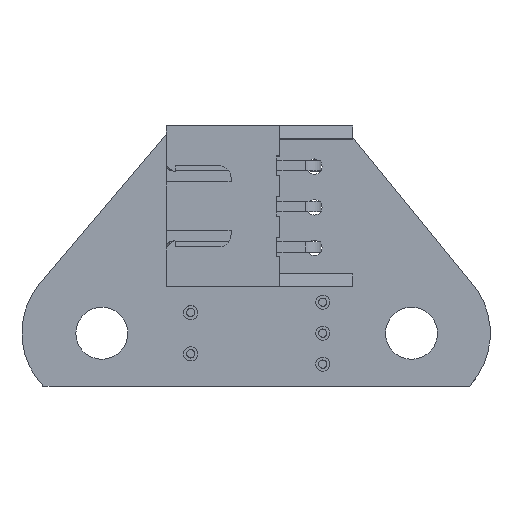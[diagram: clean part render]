
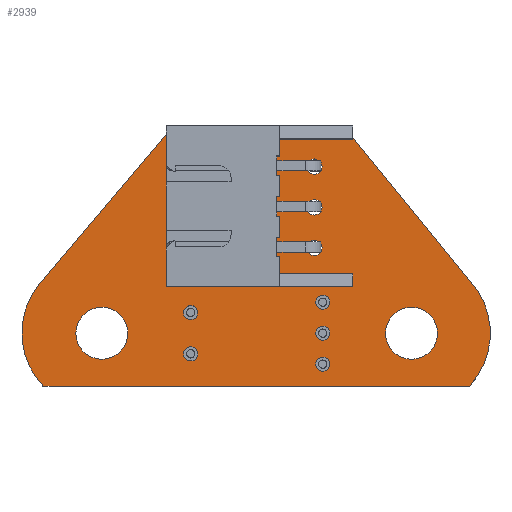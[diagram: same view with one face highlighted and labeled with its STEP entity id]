
A CAD part, top view. The second image highlights one B-rep face of the part: STEP entity #2939.
In plain terms, the highlighted planar face has unit normal (0, 0, 1).
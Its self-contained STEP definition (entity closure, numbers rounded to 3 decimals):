
#61=FACE_BOUND('',#350,.T.);
#62=FACE_BOUND('',#351,.T.);
#63=FACE_BOUND('',#352,.T.);
#64=FACE_BOUND('',#353,.T.);
#65=FACE_BOUND('',#354,.T.);
#66=FACE_BOUND('',#355,.T.);
#67=FACE_BOUND('',#356,.T.);
#68=FACE_BOUND('',#357,.T.);
#69=FACE_BOUND('',#358,.T.);
#70=FACE_BOUND('',#359,.T.);
#78=CIRCLE('',#3157,4.776);
#90=CIRCLE('',#3171,4.772);
#91=CIRCLE('',#3172,1.6);
#92=CIRCLE('',#3173,0.435);
#93=CIRCLE('',#3174,0.435);
#94=CIRCLE('',#3175,0.435);
#95=CIRCLE('',#3176,0.435);
#96=CIRCLE('',#3177,1.6);
#97=CIRCLE('',#3178,0.435);
#98=CIRCLE('',#3179,0.475);
#99=CIRCLE('',#3180,0.475);
#100=CIRCLE('',#3181,0.475);
#168=FACE_OUTER_BOUND('',#349,.T.);
#349=EDGE_LOOP('',(#1979,#1980,#1981,#1982,#1983,#1984));
#350=EDGE_LOOP('',(#1985));
#351=EDGE_LOOP('',(#1986));
#352=EDGE_LOOP('',(#1987));
#353=EDGE_LOOP('',(#1988));
#354=EDGE_LOOP('',(#1989));
#355=EDGE_LOOP('',(#1990));
#356=EDGE_LOOP('',(#1991));
#357=EDGE_LOOP('',(#1992));
#358=EDGE_LOOP('',(#1993));
#359=EDGE_LOOP('',(#1994));
#533=LINE('',#4229,#896);
#537=LINE('',#4237,#900);
#542=LINE('',#4273,#905);
#543=LINE('',#4276,#906);
#896=VECTOR('',#3394,1.);
#900=VECTOR('',#3400,1.);
#905=VECTOR('',#3437,1.);
#906=VECTOR('',#3440,1.);
#1259=VERTEX_POINT('',#4226);
#1260=VERTEX_POINT('',#4228);
#1263=VERTEX_POINT('',#4235);
#1265=VERTEX_POINT('',#4241);
#1278=VERTEX_POINT('',#4272);
#1279=VERTEX_POINT('',#4274);
#1280=VERTEX_POINT('',#4277);
#1281=VERTEX_POINT('',#4279);
#1282=VERTEX_POINT('',#4281);
#1283=VERTEX_POINT('',#4283);
#1284=VERTEX_POINT('',#4285);
#1285=VERTEX_POINT('',#4287);
#1286=VERTEX_POINT('',#4289);
#1287=VERTEX_POINT('',#4291);
#1288=VERTEX_POINT('',#4293);
#1289=VERTEX_POINT('',#4295);
#1531=EDGE_CURVE('',#1259,#1260,#533,.T.);
#1535=EDGE_CURVE('',#1263,#1259,#537,.T.);
#1539=EDGE_CURVE('',#1265,#1260,#78,.T.);
#1553=EDGE_CURVE('',#1278,#1263,#542,.T.);
#1554=EDGE_CURVE('',#1278,#1279,#90,.T.);
#1555=EDGE_CURVE('',#1265,#1279,#543,.T.);
#1556=EDGE_CURVE('',#1280,#1280,#91,.T.);
#1557=EDGE_CURVE('',#1281,#1281,#92,.T.);
#1558=EDGE_CURVE('',#1282,#1282,#93,.T.);
#1559=EDGE_CURVE('',#1283,#1283,#94,.T.);
#1560=EDGE_CURVE('',#1284,#1284,#95,.T.);
#1561=EDGE_CURVE('',#1285,#1285,#96,.T.);
#1562=EDGE_CURVE('',#1286,#1286,#97,.T.);
#1563=EDGE_CURVE('',#1287,#1287,#98,.T.);
#1564=EDGE_CURVE('',#1288,#1288,#99,.T.);
#1565=EDGE_CURVE('',#1289,#1289,#100,.T.);
#1979=ORIENTED_EDGE('',*,*,#1531,.F.);
#1980=ORIENTED_EDGE('',*,*,#1535,.F.);
#1981=ORIENTED_EDGE('',*,*,#1553,.F.);
#1982=ORIENTED_EDGE('',*,*,#1554,.T.);
#1983=ORIENTED_EDGE('',*,*,#1555,.F.);
#1984=ORIENTED_EDGE('',*,*,#1539,.T.);
#1985=ORIENTED_EDGE('',*,*,#1556,.F.);
#1986=ORIENTED_EDGE('',*,*,#1557,.F.);
#1987=ORIENTED_EDGE('',*,*,#1558,.F.);
#1988=ORIENTED_EDGE('',*,*,#1559,.F.);
#1989=ORIENTED_EDGE('',*,*,#1560,.F.);
#1990=ORIENTED_EDGE('',*,*,#1561,.F.);
#1991=ORIENTED_EDGE('',*,*,#1562,.F.);
#1992=ORIENTED_EDGE('',*,*,#1563,.F.);
#1993=ORIENTED_EDGE('',*,*,#1564,.F.);
#1994=ORIENTED_EDGE('',*,*,#1565,.F.);
#2796=PLANE('',#3170);
#2939=ADVANCED_FACE('',(#168,#61,#62,#63,#64,#65,#66,#67,#68,#69,#70),#2796,
 .F.);
#3157=AXIS2_PLACEMENT_3D('',#4244,#3407,#3408);
#3170=AXIS2_PLACEMENT_3D('',#4271,#3435,#3436);
#3171=AXIS2_PLACEMENT_3D('',#4275,#3438,#3439);
#3172=AXIS2_PLACEMENT_3D('',#4278,#3441,#3442);
#3173=AXIS2_PLACEMENT_3D('',#4280,#3443,#3444);
#3174=AXIS2_PLACEMENT_3D('',#4282,#3445,#3446);
#3175=AXIS2_PLACEMENT_3D('',#4284,#3447,#3448);
#3176=AXIS2_PLACEMENT_3D('',#4286,#3449,#3450);
#3177=AXIS2_PLACEMENT_3D('',#4288,#3451,#3452);
#3178=AXIS2_PLACEMENT_3D('',#4290,#3453,#3454);
#3179=AXIS2_PLACEMENT_3D('',#4292,#3455,#3456);
#3180=AXIS2_PLACEMENT_3D('',#4294,#3457,#3458);
#3181=AXIS2_PLACEMENT_3D('',#4296,#3459,#3460);
#3394=DIRECTION('',(0.632,-0.775,0.));
#3400=DIRECTION('',(1.,0.,0.));
#3407=DIRECTION('center_axis',(0.,0.,1.));
#3408=DIRECTION('ref_axis',(1.,0.,0.));
#3435=DIRECTION('center_axis',(0.,0.,-1.));
#3436=DIRECTION('ref_axis',(-1.,0.,0.));
#3437=DIRECTION('',(0.646,0.763,0.));
#3438=DIRECTION('center_axis',(0.,0.,1.));
#3439=DIRECTION('ref_axis',(1.,0.,0.));
#3440=DIRECTION('',(-1.,0.,0.));
#3441=DIRECTION('center_axis',(0.,0.,1.));
#3442=DIRECTION('ref_axis',(1.,0.,0.));
#3443=DIRECTION('center_axis',(0.,0.,1.));
#3444=DIRECTION('ref_axis',(1.,0.,0.));
#3445=DIRECTION('center_axis',(0.,0.,1.));
#3446=DIRECTION('ref_axis',(1.,0.,0.));
#3447=DIRECTION('center_axis',(0.,0.,1.));
#3448=DIRECTION('ref_axis',(1.,0.,0.));
#3449=DIRECTION('center_axis',(0.,0.,1.));
#3450=DIRECTION('ref_axis',(1.,0.,0.));
#3451=DIRECTION('center_axis',(0.,0.,1.));
#3452=DIRECTION('ref_axis',(1.,0.,0.));
#3453=DIRECTION('center_axis',(0.,0.,1.));
#3454=DIRECTION('ref_axis',(1.,0.,0.));
#3455=DIRECTION('center_axis',(0.,0.,1.));
#3456=DIRECTION('ref_axis',(1.,0.,0.));
#3457=DIRECTION('center_axis',(0.,0.,1.));
#3458=DIRECTION('ref_axis',(1.,0.,0.));
#3459=DIRECTION('center_axis',(0.,0.,1.));
#3460=DIRECTION('ref_axis',(1.,0.,0.));
#4226=CARTESIAN_POINT('',(117.75,-52.75,1.6));
#4228=CARTESIAN_POINT('',(125.5,-62.25,1.6));
#4229=CARTESIAN_POINT('',(117.75,-52.75,1.6));
#4235=CARTESIAN_POINT('',(107.25,-52.75,1.6));
#4237=CARTESIAN_POINT('',(107.25,-52.75,1.6));
#4241=CARTESIAN_POINT('',(125.5,-68.75,1.6));
#4244=CARTESIAN_POINT('Origin',(122.,-65.5,1.6));
#4271=CARTESIAN_POINT('Origin',(112.383,-62.244,1.6));
#4272=CARTESIAN_POINT('',(99.,-62.5,1.6));
#4273=CARTESIAN_POINT('',(99.,-62.5,1.6));
#4274=CARTESIAN_POINT('',(99.25,-68.75,1.6));
#4275=CARTESIAN_POINT('Origin',(102.726,-65.481,1.6));
#4276=CARTESIAN_POINT('',(125.5,-68.75,1.6));
#4277=CARTESIAN_POINT('',(120.33,-65.5,1.6));
#4278=CARTESIAN_POINT('Origin',(121.93,-65.5,1.6));
#4279=CARTESIAN_POINT('',(116.03,-67.405,1.6));
#4280=CARTESIAN_POINT('Origin',(116.465,-67.405,1.6));
#4281=CARTESIAN_POINT('',(116.03,-65.5,1.6));
#4282=CARTESIAN_POINT('Origin',(116.465,-65.5,1.6));
#4283=CARTESIAN_POINT('',(116.03,-63.595,1.6));
#4284=CARTESIAN_POINT('Origin',(116.465,-63.595,1.6));
#4285=CARTESIAN_POINT('',(107.9,-66.77,1.6));
#4286=CARTESIAN_POINT('Origin',(108.335,-66.77,1.6));
#4287=CARTESIAN_POINT('',(101.27,-65.5,1.6));
#4288=CARTESIAN_POINT('Origin',(102.87,-65.5,1.6));
#4289=CARTESIAN_POINT('',(107.9,-64.23,1.6));
#4290=CARTESIAN_POINT('Origin',(108.335,-64.23,1.6));
#4291=CARTESIAN_POINT('',(115.475,-60.25,1.6));
#4292=CARTESIAN_POINT('Origin',(115.95,-60.25,1.6));
#4293=CARTESIAN_POINT('',(115.475,-57.75,1.6));
#4294=CARTESIAN_POINT('Origin',(115.95,-57.75,1.6));
#4295=CARTESIAN_POINT('',(115.475,-55.25,1.6));
#4296=CARTESIAN_POINT('Origin',(115.95,-55.25,1.6));
